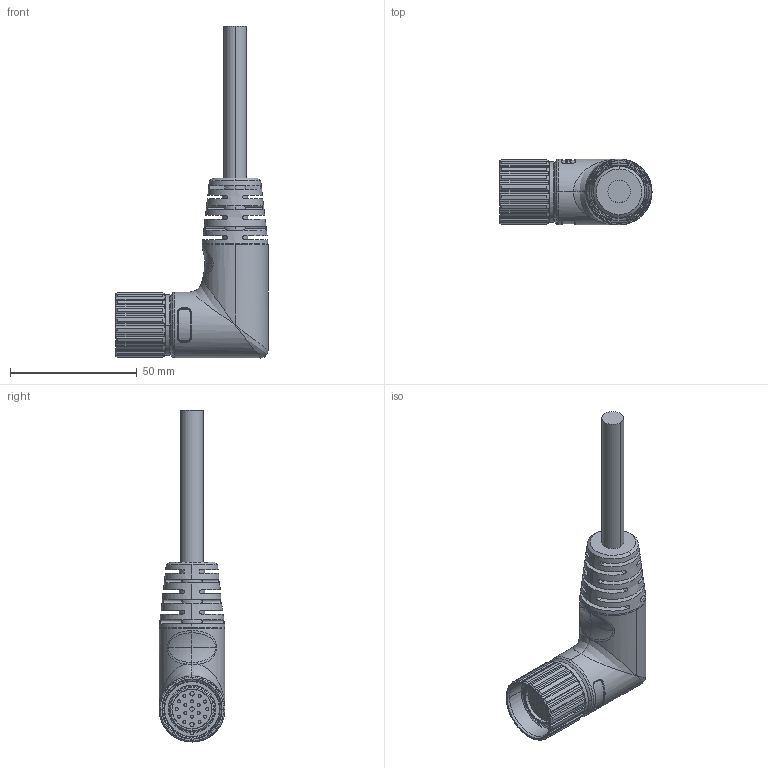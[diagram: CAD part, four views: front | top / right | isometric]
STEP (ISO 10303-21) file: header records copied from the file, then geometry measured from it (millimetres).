
FILE_DESCRIPTION (( 'STEP AP203' ), '1' );
FILE_NAME ('68CB71.STEP', '2024-09-30T08:47:28', ( 'L' ), ( '' ), 'SwSTEP 2.0', 'SolidWorks 2019', '' );
FILE_SCHEMA (( 'CONFIG_CONTROL_DESIGN' ));
Length unit declared in the file: millimetre
Products named in the file (1): 68CB71
Bounding box: 60 x 26 x 131 mm (x, y, z)
Volume: 48590.9 mm3; surface area: 19604.6 mm2
Topology: 1 solids, 1 shells, 1314 faces, 3680 edges, 2383 vertices
Faces by surface type: plane 501, cylinder 465, cone 201, torus 100, bspline 35, sphere 12
Entity records: 53284 total; most frequent: CARTESIAN_POINT 21656, ORIENTED_EDGE 7348, DIRECTION 5933, EDGE_CURVE 3674, AXIS2_PLACEMENT_3D 2614, VERTEX_POINT 2383, B_SPLINE_CURVE_WITH_KNOTS 1457, EDGE_LOOP 1393
